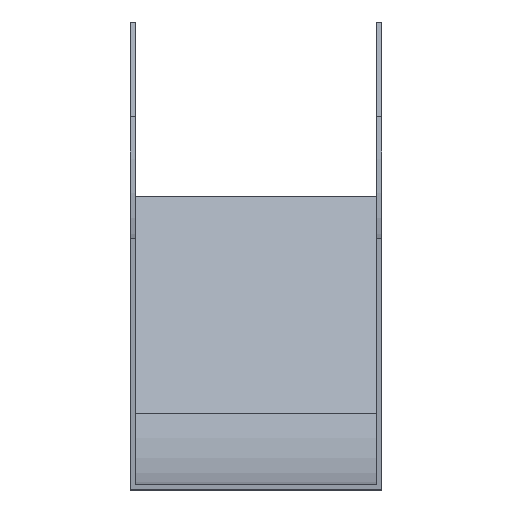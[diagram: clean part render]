
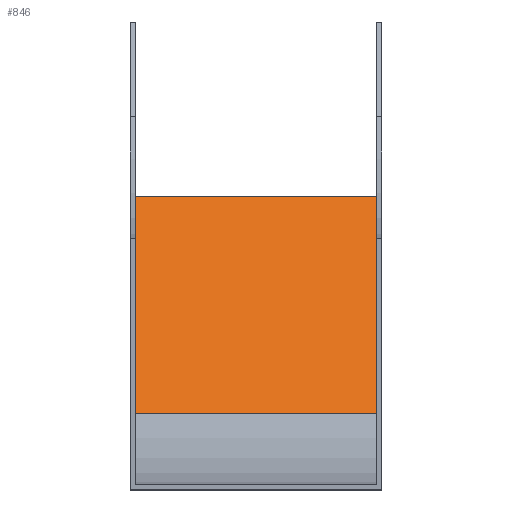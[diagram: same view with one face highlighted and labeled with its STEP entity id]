
A CAD part, top view. The second image highlights one B-rep face of the part: STEP entity #846.
In plain terms, the highlighted planar face has unit normal (0, 0.707, 0.707).
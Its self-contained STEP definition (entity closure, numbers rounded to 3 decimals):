
#19 = CARTESIAN_POINT ( 'NONE',  ( 37.5, 12.924, -208.645 ) ) ;
#91 = ORIENTED_EDGE ( 'NONE', *, *, #1534, .T. ) ;
#151 = ORIENTED_EDGE ( 'NONE', *, *, #405, .F. ) ;
#268 = CARTESIAN_POINT ( 'NONE',  ( 37.5, -51.972, -143.749 ) ) ;
#302 = DIRECTION ( 'NONE',  ( 0., 0.707, 0.707 ) ) ;
#307 = AXIS2_PLACEMENT_3D ( 'NONE', #19, #302, #1072 ) ;
#405 = EDGE_CURVE ( 'NONE', #1060, #1115, #1588, .T. ) ;
#421 = VECTOR ( 'NONE', #1480, 1000. ) ;
#432 = PLANE ( 'NONE',  #307 ) ;
#433 = DIRECTION ( 'NONE',  ( 0., 0.707, -0.707 ) ) ;
#475 = LINE ( 'NONE', #1514, #421 ) ;
#503 = LINE ( 'NONE', #268, #1383 ) ;
#569 = VECTOR ( 'NONE', #829, 1000. ) ;
#611 = CARTESIAN_POINT ( 'NONE',  ( -36., 12.924, -208.645 ) ) ;
#684 = EDGE_CURVE ( 'NONE', #794, #1060, #503, .T. ) ;
#731 = LINE ( 'NONE', #1112, #569 ) ;
#732 = CARTESIAN_POINT ( 'NONE',  ( 36., 12.924, -208.645 ) ) ;
#794 = VERTEX_POINT ( 'NONE', #816 ) ;
#816 = CARTESIAN_POINT ( 'NONE',  ( 36., -51.972, -143.749 ) ) ;
#829 = DIRECTION ( 'NONE',  ( 0., 0.707, -0.707 ) ) ;
#846 = ADVANCED_FACE ( 'NONE', ( #1570 ), #432, .T. ) ;
#875 = DIRECTION ( 'NONE',  ( -1., 0., 0. ) ) ;
#906 = VERTEX_POINT ( 'NONE', #732 ) ;
#1060 = VERTEX_POINT ( 'NONE', #1539 ) ;
#1072 = DIRECTION ( 'NONE',  ( 0., -0.707, 0.707 ) ) ;
#1112 = CARTESIAN_POINT ( 'NONE',  ( 36., 12.924, -208.645 ) ) ;
#1115 = VERTEX_POINT ( 'NONE', #611 ) ;
#1309 = ORIENTED_EDGE ( 'NONE', *, *, #1375, .T. ) ;
#1375 = EDGE_CURVE ( 'NONE', #794, #906, #731, .T. ) ;
#1383 = VECTOR ( 'NONE', #875, 1000. ) ;
#1480 = DIRECTION ( 'NONE',  ( -1., 0., 0. ) ) ;
#1514 = CARTESIAN_POINT ( 'NONE',  ( 37.5, 12.924, -208.645 ) ) ;
#1526 = VECTOR ( 'NONE', #433, 1000. ) ;
#1534 = EDGE_CURVE ( 'NONE', #906, #1115, #475, .T. ) ;
#1538 = EDGE_LOOP ( 'NONE', ( #151, #1646, #1309, #91 ) ) ;
#1539 = CARTESIAN_POINT ( 'NONE',  ( -36., -51.972, -143.749 ) ) ;
#1570 = FACE_OUTER_BOUND ( 'NONE', #1538, .T. ) ;
#1588 = LINE ( 'NONE', #1596, #1526 ) ;
#1596 = CARTESIAN_POINT ( 'NONE',  ( -36., 12.924, -208.645 ) ) ;
#1646 = ORIENTED_EDGE ( 'NONE', *, *, #684, .F. ) ;
